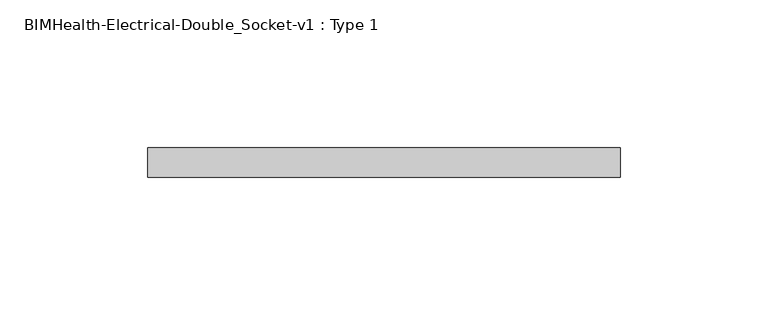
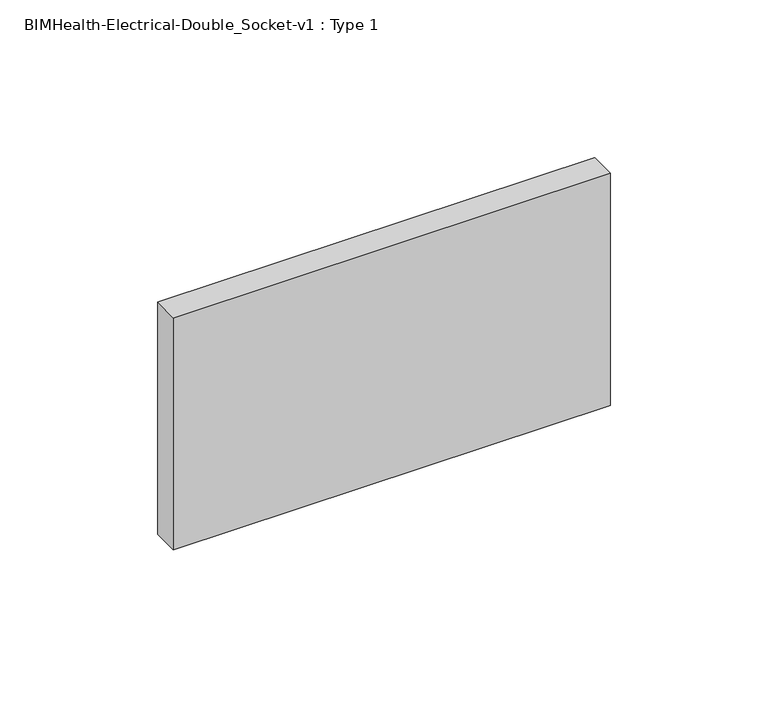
"""IFC4 building model written with IfcOpenShell, lengths in millimetres: proxy geometry, BIMHealth-Electrical-Double_Socket-v1 : Type 1."""

from ifc_helpers import new_model, si_unit, frame, origin, place, context, project, spatial, polyline, outline, extrude, source, transform, mapped, element, save


def bimhealth_electrical_double_socket_v1_type_1_f9b83866(model_context):
    return source(origin(), model_context, "Body", "SweptSolid", [
        extrude(outline(polyline([(285.0, 50.0), (125.0, 50.0), (125.0, 60.0), (285.0, 60.0), (285.0, 50.0)])), frame((0.0, 0.0, 450.0), z_axis=(0.0, 0.0, 1.0), x_axis=(1.0, 0.0, 0.0)), (0.0, 0.0, 1.0), 90.0),
    ])


if __name__ == "__main__":
    model = new_model("IFC4")
    model_context = context("Model", 3, world=origin())
    ifc_project = project(units=[si_unit("LENGTHUNIT", "METRE", prefix="MILLI")], contexts=[model_context])
    site = spatial("IfcSite", under=ifc_project)
    building = spatial("IfcBuilding", under=site)
    placement = place(None, origin())
    bimhealth_electrical_double_socket_v1_type_1_shape = bimhealth_electrical_double_socket_v1_type_1_f9b83866(model_context)
    element("IfcBuildingElementProxy", 1, Name="BIMHealth-Electrical-Double_Socket-v1 : Type 1", ObjectType="BIMHealth-Electrical-Double_Socket-v1 : Type 1", at=placement, inside=building, context=model_context, shape_type="MappedRepresentation", body=[
        mapped(bimhealth_electrical_double_socket_v1_type_1_shape, transform((0.0, 0.0, 0.0), x_axis=(1.0, 0.0, 0.0), y_axis=(0.0, 1.0, 0.0), z_axis=(0.0, 0.0, 1.0))),
    ])
    save(model, "model.ifc")
